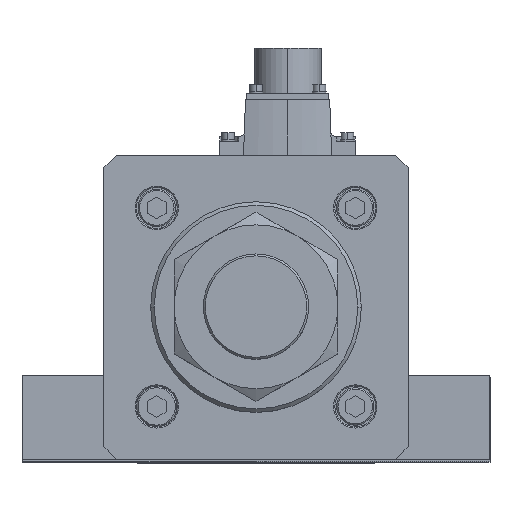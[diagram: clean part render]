
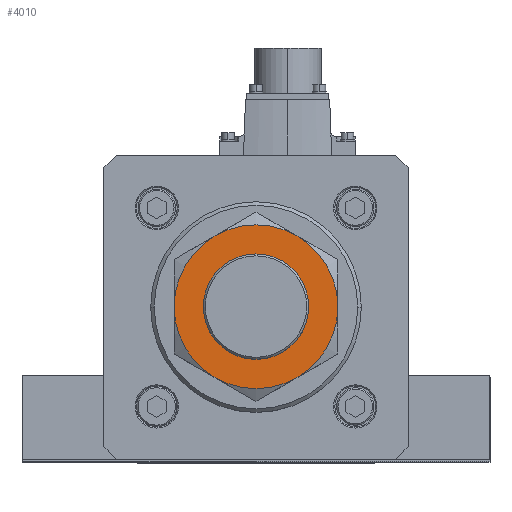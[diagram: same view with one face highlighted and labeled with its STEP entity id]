
A CAD part, top view. The second image highlights one B-rep face of the part: STEP entity #4010.
In plain terms, the highlighted planar face has unit normal (0, 0, 1).
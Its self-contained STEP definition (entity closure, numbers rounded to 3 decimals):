
#345 = ORIENTED_EDGE ( 'NONE', *, *, #3107, .F. ) ;
#910 = EDGE_CURVE ( 'NONE', #19430, #16971, #34045, .T. ) ;
#1027 = DIRECTION ( 'NONE',  ( 1., 0., 0. ) ) ;
#1421 = ORIENTED_EDGE ( 'NONE', *, *, #13609, .F. ) ;
#1431 = VERTEX_POINT ( 'NONE', #12459 ) ;
#1552 = DIRECTION ( 'NONE',  ( -1., 0., 0. ) ) ;
#3000 = DIRECTION ( 'NONE',  ( -1., 0., 0. ) ) ;
#3107 = EDGE_CURVE ( 'NONE', #12805, #19430, #33885, .T. ) ;
#3411 = CARTESIAN_POINT ( 'NONE',  ( -17.5, 30.311, 27. ) ) ;
#4010 = ADVANCED_FACE ( 'NONE', ( #17820, #7638 ), #33434, .T. ) ;
#5733 = CARTESIAN_POINT ( 'NONE',  ( 0., 0., 27. ) ) ;
#5802 = CARTESIAN_POINT ( 'NONE',  ( 0., 0., 27. ) ) ;
#5928 = DIRECTION ( 'NONE',  ( 1., 0., 0. ) ) ;
#6183 = DIRECTION ( 'NONE',  ( 0., 0., -1. ) ) ;
#7174 = EDGE_CURVE ( 'NONE', #30218, #1431, #7464, .T. ) ;
#7464 = CIRCLE ( 'NONE', #28606, 22.5 ) ;
#7633 = CIRCLE ( 'NONE', #35623, 35. ) ;
#7638 = FACE_BOUND ( 'NONE', #11203, .T. ) ;
#7685 = ORIENTED_EDGE ( 'NONE', *, *, #7174, .F. ) ;
#8254 = DIRECTION ( 'NONE',  ( 0., 0., 1. ) ) ;
#8286 = DIRECTION ( 'NONE',  ( -1., 0., 0. ) ) ;
#8531 = CIRCLE ( 'NONE', #11299, 35. ) ;
#9230 = VERTEX_POINT ( 'NONE', #31707 ) ;
#9532 = AXIS2_PLACEMENT_3D ( 'NONE', #5802, #8254, #5928 ) ;
#10146 = ORIENTED_EDGE ( 'NONE', *, *, #910, .F. ) ;
#10231 = CARTESIAN_POINT ( 'NONE',  ( 22.5, 0., 27. ) ) ;
#10710 = DIRECTION ( 'NONE',  ( 0., 0., -1. ) ) ;
#11203 = EDGE_LOOP ( 'NONE', ( #19492, #7685 ) ) ;
#11299 = AXIS2_PLACEMENT_3D ( 'NONE', #11537, #17751, #3000 ) ;
#11537 = CARTESIAN_POINT ( 'NONE',  ( 0., 0., 27. ) ) ;
#11775 = VERTEX_POINT ( 'NONE', #30299 ) ;
#12459 = CARTESIAN_POINT ( 'NONE',  ( -22.5, 0., 27. ) ) ;
#12805 = VERTEX_POINT ( 'NONE', #30604 ) ;
#13406 = DIRECTION ( 'NONE',  ( 0., 0., -1. ) ) ;
#13461 = CARTESIAN_POINT ( 'NONE',  ( 0., 0., 27. ) ) ;
#13609 = EDGE_CURVE ( 'NONE', #24539, #9230, #7633, .T. ) ;
#16971 = VERTEX_POINT ( 'NONE', #3411 ) ;
#17227 = CARTESIAN_POINT ( 'NONE',  ( 0., 0., 27. ) ) ;
#17458 = EDGE_CURVE ( 'NONE', #1431, #30218, #18814, .T. ) ;
#17635 = DIRECTION ( 'NONE',  ( 0., 0., 1. ) ) ;
#17751 = DIRECTION ( 'NONE',  ( 0., 0., -1. ) ) ;
#17820 = FACE_OUTER_BOUND ( 'NONE', #33642, .T. ) ;
#17878 = ORIENTED_EDGE ( 'NONE', *, *, #18978, .F. ) ;
#18628 = AXIS2_PLACEMENT_3D ( 'NONE', #32877, #6183, #29399 ) ;
#18647 = EDGE_CURVE ( 'NONE', #9230, #11775, #8531, .T. ) ;
#18749 = DIRECTION ( 'NONE',  ( 0., 0., 1. ) ) ;
#18814 = CIRCLE ( 'NONE', #9532, 22.5 ) ;
#18978 = EDGE_CURVE ( 'NONE', #11775, #12805, #35781, .T. ) ;
#19145 = AXIS2_PLACEMENT_3D ( 'NONE', #30459, #18749, #1027 ) ;
#19430 = VERTEX_POINT ( 'NONE', #25044 ) ;
#19492 = ORIENTED_EDGE ( 'NONE', *, *, #17458, .F. ) ;
#20583 = DIRECTION ( 'NONE',  ( 1., 0., 0. ) ) ;
#21340 = AXIS2_PLACEMENT_3D ( 'NONE', #17227, #25978, #8286 ) ;
#21864 = EDGE_CURVE ( 'NONE', #16971, #24539, #33663, .T. ) ;
#22060 = CARTESIAN_POINT ( 'NONE',  ( 0., 0., 27. ) ) ;
#24539 = VERTEX_POINT ( 'NONE', #26883 ) ;
#25044 = CARTESIAN_POINT ( 'NONE',  ( -35., 0., 27. ) ) ;
#25978 = DIRECTION ( 'NONE',  ( 0., 0., -1. ) ) ;
#26695 = AXIS2_PLACEMENT_3D ( 'NONE', #35801, #33296, #32794 ) ;
#26883 = CARTESIAN_POINT ( 'NONE',  ( 17.5, 30.311, 27. ) ) ;
#28373 = AXIS2_PLACEMENT_3D ( 'NONE', #13461, #10710, #1552 ) ;
#28606 = AXIS2_PLACEMENT_3D ( 'NONE', #5733, #17635, #20583 ) ;
#29399 = DIRECTION ( 'NONE',  ( -1., 0., 0. ) ) ;
#30218 = VERTEX_POINT ( 'NONE', #10231 ) ;
#30299 = CARTESIAN_POINT ( 'NONE',  ( 17.5, -30.311, 27. ) ) ;
#30459 = CARTESIAN_POINT ( 'NONE',  ( 0., 0., 27. ) ) ;
#30604 = CARTESIAN_POINT ( 'NONE',  ( -17.5, -30.311, 27. ) ) ;
#31242 = ORIENTED_EDGE ( 'NONE', *, *, #18647, .F. ) ;
#31707 = CARTESIAN_POINT ( 'NONE',  ( 35., 0., 27. ) ) ;
#32794 = DIRECTION ( 'NONE',  ( -1., 0., 0. ) ) ;
#32877 = CARTESIAN_POINT ( 'NONE',  ( 0., 0., 27. ) ) ;
#33296 = DIRECTION ( 'NONE',  ( 0., 0., -1. ) ) ;
#33434 = PLANE ( 'NONE',  #19145 ) ;
#33642 = EDGE_LOOP ( 'NONE', ( #31242, #1421, #38003, #10146, #345, #17878 ) ) ;
#33663 = CIRCLE ( 'NONE', #18628, 35. ) ;
#33885 = CIRCLE ( 'NONE', #21340, 35. ) ;
#34045 = CIRCLE ( 'NONE', #26695, 35. ) ;
#35623 = AXIS2_PLACEMENT_3D ( 'NONE', #22060, #13406, #36892 ) ;
#35781 = CIRCLE ( 'NONE', #28373, 35. ) ;
#35801 = CARTESIAN_POINT ( 'NONE',  ( 0., 0., 27. ) ) ;
#36892 = DIRECTION ( 'NONE',  ( -1., 0., 0. ) ) ;
#38003 = ORIENTED_EDGE ( 'NONE', *, *, #21864, .F. ) ;
